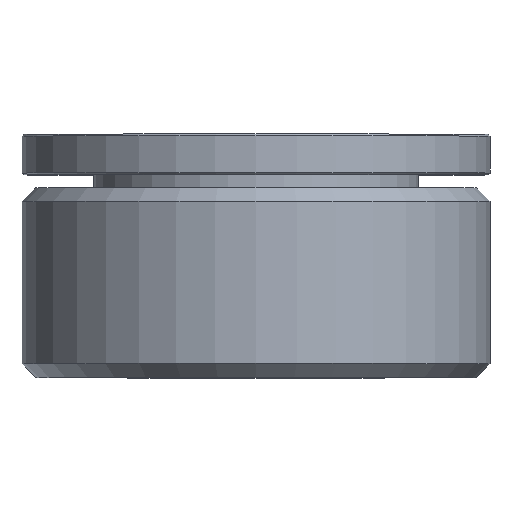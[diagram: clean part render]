
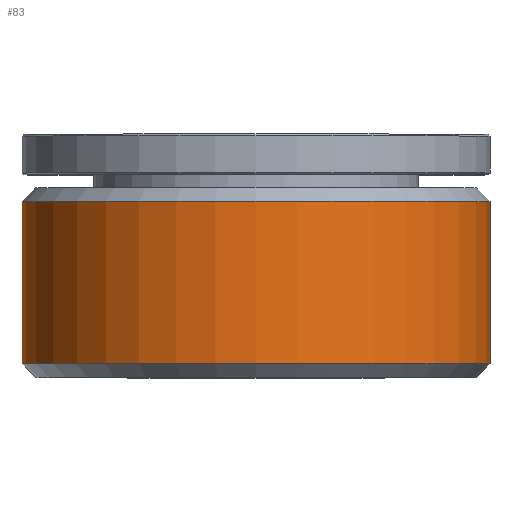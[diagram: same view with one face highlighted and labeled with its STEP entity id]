
A CAD part, top view. The second image highlights one B-rep face of the part: STEP entity #83.
In plain terms, the highlighted cylindrical face has radius 12.5 mm (diameter 25 mm), a full revolution.
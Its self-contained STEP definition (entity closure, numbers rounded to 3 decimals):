
#83 = ADVANCED_FACE( '', ( #123, #124 ), #125, .T. );
#123 = FACE_OUTER_BOUND( '', #192, .T. );
#124 = FACE_OUTER_BOUND( '', #193, .T. );
#125 = CYLINDRICAL_SURFACE( '', #194, 12.5 );
#192 = EDGE_LOOP( '', ( #277 ) );
#193 = EDGE_LOOP( '', ( #278 ) );
#194 = AXIS2_PLACEMENT_3D( '', #279, #280, #281 );
#277 = ORIENTED_EDGE( '', *, *, #361, .T. );
#278 = ORIENTED_EDGE( '', *, *, #360, .F. );
#279 = CARTESIAN_POINT( '', ( 0., 0., 0. ) );
#280 = DIRECTION( '', ( 0., 1., 0. ) );
#281 = DIRECTION( '', ( 0., 0., -1. ) );
#360 = EDGE_CURVE( '', #391, #391, #392, .T. );
#361 = EDGE_CURVE( '', #393, #393, #394, .T. );
#391 = VERTEX_POINT( '', #437 );
#392 = CIRCLE( '', #438, 12.5 );
#393 = VERTEX_POINT( '', #439 );
#394 = CIRCLE( '', #440, 12.5 );
#437 = CARTESIAN_POINT( '', ( 0., 0.74, -12.5 ) );
#438 = AXIS2_PLACEMENT_3D( '', #491, #492, #493 );
#439 = CARTESIAN_POINT( '', ( 0., 9.4, -12.5 ) );
#440 = AXIS2_PLACEMENT_3D( '', #494, #495, #496 );
#491 = CARTESIAN_POINT( '', ( 0., 0.74, 0. ) );
#492 = DIRECTION( '', ( 0., -1., 0. ) );
#493 = DIRECTION( '', ( 0., 0., -1. ) );
#494 = CARTESIAN_POINT( '', ( 0., 9.4, 0. ) );
#495 = DIRECTION( '', ( 0., -1., 0. ) );
#496 = DIRECTION( '', ( 0., 0., -1. ) );
